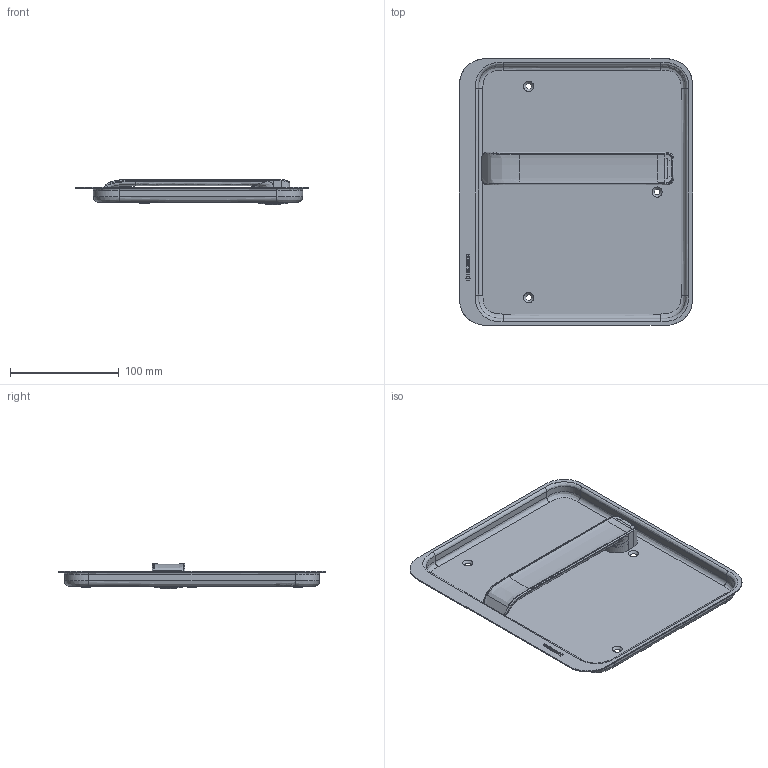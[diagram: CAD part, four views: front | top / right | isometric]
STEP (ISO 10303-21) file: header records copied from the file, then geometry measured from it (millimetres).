
FILE_DESCRIPTION(/* description */ (''),/* implementation_level */ '2;1');
FILE_NAME(/* name */ 'C:\ADSK_DMS_WS\Designs\Vorschläge\Loc Schalen\Muschel Serie 9\S9.13.D3Links\Heusser-Muschel S9.13.D3.0L.stp',/* time_stamp */ '2020-10-14T07:35:34+02:00',/* author */ ('gm'),/* organization */ (''),/* preprocessor_version */ 'ST-DEVELOPER v16.5',/* originating_system */ 'Autodesk Inventor 2017',/* authorisation */ '');
FILE_SCHEMA (('AUTOMOTIVE_DESIGN { 1 0 10303 214 3 1 1 }'));
Length unit declared in the file: millimetre
Products named in the file (1): S9.13.D3.0L
Bounding box: 214 x 245 x 23 mm (x, y, z)
Volume: 95898 mm3; surface area: 137762.1 mm2
Topology: 1 solids, 2 shells, 327 faces, 843 edges, 546 vertices
Faces by surface type: bspline 160, plane 131, cylinder 20, cone 16
Full cylindrical faces by diameter (mm): 1.7 x2, 14.2 x1, 16 x3, 18 x1, 19 x1, 19.1 x1, 23 x1, 23.2 x1, 24 x1, 25 x1, 26 x1, 28 x1
Entity records: 18312 total; most frequent: CARTESIAN_POINT 11071, ORIENTED_EDGE 1612, DIRECTION 953, EDGE_CURVE 806, VERTEX_POINT 540, LINE 411, VECTOR 411, EDGE_LOOP 402
